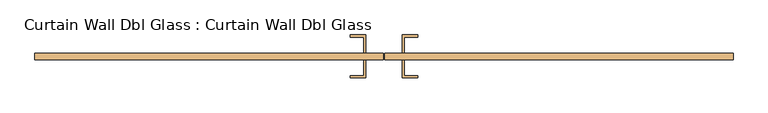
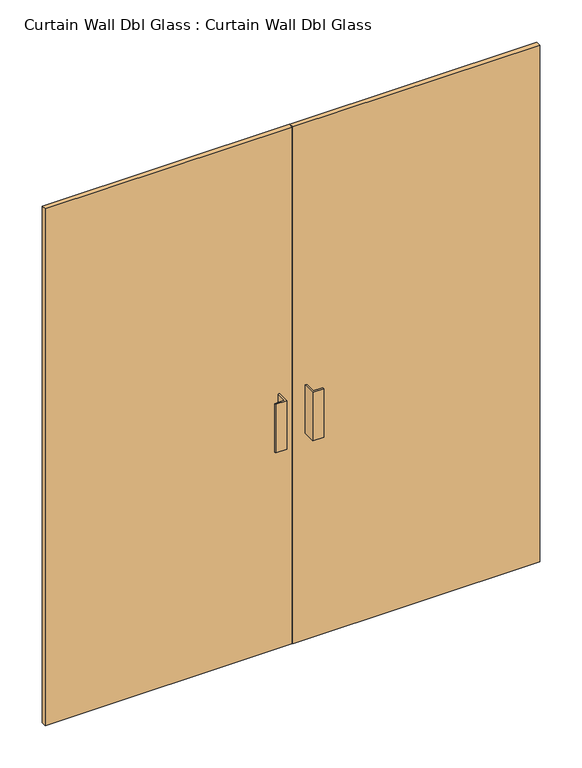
"""IFC4 building model written with IfcOpenShell, lengths in millimetres: door geometry, Curtain Wall Dbl Glass : Curtain Wall Dbl Glass."""

import ifcopenshell
import ifcopenshell.guid

model = None  # the IFC model being written
_history = None  # IfcOwnerHistory: only IFC2X3 demands one
_inside = {}  # id of a spatial element -> (the spatial element, [elements in it])
_under = {}  # id of a project, library or spatial element -> (it, [spatial elements below it])
_declared = {}  # id of a project -> (the project, [libraries it declares])
_typed = {}  # id of a type object -> (the type object, [elements of that type])
_made_of = {}  # id of a material, layer set ... -> (it, [elements and type objects made of it])


def new_model(schema):
    """Start an empty IFC model of exactly this schema.

    Asked for "IFC4X3", IfcOpenShell would pick the latest addendum, in which some entities
    have other attributes; the version numbers below select the first issue.
    IFC2X3 requires an IfcOwnerHistory on every rooted entity: one is made here for all.
    """
    global model, _history
    if schema == "IFC4X3":
        model = ifcopenshell.file(schema_version=(4, 3, 0, 0))
    else:
        model = ifcopenshell.file(schema=schema)
    _inside.clear()
    _under.clear()
    _declared.clear()
    _typed.clear()
    _made_of.clear()
    _history = None
    if model.schema == "IFC2X3":
        org = make("IfcOrganization", Name="unknown")
        user = make(
            "IfcPersonAndOrganization",
            ThePerson=make("IfcPerson", FamilyName="unknown"),
            TheOrganization=org,
        )
        app = make(
            "IfcApplication",
            ApplicationDeveloper=org,
            Version="unknown",
            ApplicationFullName="unknown",
            ApplicationIdentifier="unknown",
        )
        _history = make(
            "IfcOwnerHistory",
            OwningUser=user,
            OwningApplication=app,
            ChangeAction="ADDED",
            CreationDate=0,
        )
    return model


def make(cls, **values):
    """One entity of the class cls with the attributes given. An attribute that is None is left unset."""
    return model.create_entity(
        cls, **{name: value for name, value in values.items() if value is not None}
    )


def rooted(cls, **values):
    """An entity with a GlobalId (a new one), such as an element, a storey or a relation."""
    return make(cls, GlobalId=ifcopenshell.guid.new(), OwnerHistory=_history, **values)


def si_unit(unit_type, name, prefix=None):
    """IfcSIUnit, for example si_unit("LENGTHUNIT", "METRE", prefix="MILLI")."""
    return make("IfcSIUnit", UnitType=unit_type, Prefix=prefix, Name=name)


def assignment(units):
    """IfcUnitAssignment: the units of a project."""
    return None if units is None else make("IfcUnitAssignment", Units=units)


def point(xyz):
    """IfcCartesianPoint."""
    return None if xyz is None else make("IfcCartesianPoint", Coordinates=xyz)


def direction(xyz):
    """IfcDirection."""
    return None if xyz is None else make("IfcDirection", DirectionRatios=xyz)


def frame(location, z_axis=None, x_axis=None):
    """IfcAxis2Placement3D, a coordinate frame: its origin and axes. An axis left out is left unset."""
    return make(
        "IfcAxis2Placement3D",
        Location=point(location),
        Axis=direction(z_axis),
        RefDirection=direction(x_axis),
    )


def origin():
    """The frame at (0, 0, 0) with its axes left unset."""
    return frame((0.0, 0.0, 0.0))


def origin_with_axes():
    """The frame at (0, 0, 0) with the z axis (0, 0, 1) and the x axis (1, 0, 0) written out."""
    return frame((0.0, 0.0, 0.0), z_axis=(0.0, 0.0, 1.0), x_axis=(1.0, 0.0, 0.0))


def place(relative_to, where):
    """IfcLocalPlacement: puts the frame where relative to a parent placement (None: the world)."""
    return make(
        "IfcLocalPlacement", PlacementRelTo=relative_to, RelativePlacement=where
    )


def context(
    kind, dimensions, precision=None, world=None, true_north=None, identifier=None
):
    """IfcGeometricRepresentationContext, for example the 3D "Model" context."""
    return make(
        "IfcGeometricRepresentationContext",
        ContextIdentifier=identifier,
        ContextType=kind,
        CoordinateSpaceDimension=dimensions,
        Precision=precision,
        WorldCoordinateSystem=world,
        TrueNorth=true_north,
    )


def project(units=None, contexts=None):
    """IfcProject with its units and contexts."""
    return rooted(
        "IfcProject",
        Name="project",
        RepresentationContexts=contexts,
        UnitsInContext=assignment(units),
    )


def spatial(cls, under=None, at=None, **own):
    """A site, building, storey or space (cls), placed at a placement, below another one or the project."""
    s = rooted(cls, ObjectPlacement=at, **own)
    if under is not None:
        _under.setdefault(under.id(), (under, []))[1].append(s)
    return s


def polyline(points):
    """IfcPolyline through the points."""
    return make("IfcPolyline", Points=[point(p) for p in points])


def outline(outer, holes=None, kind="AREA"):
    """IfcArbitraryClosedProfileDef: a profile drawn as a closed curve; with holes, ...WithVoids."""
    if holes is None:
        return make("IfcArbitraryClosedProfileDef", ProfileType=kind, OuterCurve=outer)
    return make(
        "IfcArbitraryProfileDefWithVoids",
        ProfileType=kind,
        OuterCurve=outer,
        InnerCurves=holes,
    )


def extrude(swept, where, along, depth):
    """IfcExtrudedAreaSolid: the profile swept, set in the frame where, extruded along a direction by depth."""
    return make(
        "IfcExtrudedAreaSolid",
        SweptArea=swept,
        Position=where,
        ExtrudedDirection=direction(along),
        Depth=depth,
    )


def shape(context_of_items, identifier, shape_type, items):
    """IfcShapeRepresentation: the items that make up one representation, for example the "Body"."""
    return make(
        "IfcShapeRepresentation",
        ContextOfItems=context_of_items,
        RepresentationIdentifier=identifier,
        RepresentationType=shape_type,
        Items=items,
    )


def source(mapping_origin, context_of_items, identifier, shape_type, items):
    """IfcRepresentationMap: a shape defined once, which mapped items show again and again."""
    return make(
        "IfcRepresentationMap",
        MappingOrigin=mapping_origin,
        MappedRepresentation=shape(context_of_items, identifier, shape_type, items),
    )


def transform(
    local_origin,
    x_axis=None,
    y_axis=None,
    z_axis=None,
    scale=None,
    scale2=None,
    scale3=None,
    uniform=True,
):
    """IfcCartesianTransformationOperator3D, or its non-uniform kind. x_axis, y_axis, z_axis: its Axis1, 2, 3."""
    if uniform:
        return make(
            "IfcCartesianTransformationOperator3D",
            Axis1=direction(x_axis),
            Axis2=direction(y_axis),
            LocalOrigin=point(local_origin),
            Scale=scale,
            Axis3=direction(z_axis),
        )
    return make(
        "IfcCartesianTransformationOperator3DnonUniform",
        Axis1=direction(x_axis),
        Axis2=direction(y_axis),
        LocalOrigin=point(local_origin),
        Scale=scale,
        Axis3=direction(z_axis),
        Scale2=scale2,
        Scale3=scale3,
    )


def mapped(mapping_source, mapping_target):
    """IfcMappedItem: shows the shape of a source again, moved by a transform."""
    return make(
        "IfcMappedItem", MappingSource=mapping_source, MappingTarget=mapping_target
    )


def made_of(thing, what):
    """Note that an element or type object is made of a material, layer set ...; save() writes the relation."""
    if what is not None:
        _made_of.setdefault(what.id(), (what, []))[1].append(thing)
    return thing


def element(
    cls,
    number,
    at=None,
    inside=None,
    cuts=None,
    type_object=None,
    material=None,
    context=None,
    identifier="Body",
    shape_type=None,
    held_by="IfcProductDefinitionShape",
    body=None,
    shapes=None,
    **own,
):
    """One element of the class cls, such as IfcWall. Its Tag is "e" and its number.

    at: its placement. inside: the storey or other place that contains it. cuts: it is an
    opening in that element (IfcRelVoidsElement). A single representation is given by context,
    identifier, shape_type and body (its items); several are given by shapes. held_by: the class
    of the entity that holds the representations. save() writes the other relations.
    """
    e = rooted(cls, Tag="e%d" % number, ObjectPlacement=at, **own)
    if body is not None:
        shapes = [shape(context, identifier, shape_type, body)]
    if shapes is not None:
        e.Representation = make(held_by, Representations=shapes)
    if inside is not None:
        _inside.setdefault(inside.id(), (inside, []))[1].append(e)
    if cuts is not None:
        rooted(
            "IfcRelVoidsElement", RelatingBuildingElement=cuts, RelatedOpeningElement=e
        )
    if type_object is not None:
        _typed.setdefault(type_object.id(), (type_object, []))[1].append(e)
    return made_of(e, material)


def aggregate(whole, parts):
    """IfcRelAggregates: a whole, such as a stair, and the parts it consists of."""
    return rooted("IfcRelAggregates", RelatingObject=whole, RelatedObjects=parts)


def save(model, path):
    """Write the relations noted so far, then the file.

    IfcRelAggregates (storeys below a building ...), IfcRelContainedInSpatialStructure (elements
    in a storey), IfcRelDefinesByType, IfcRelAssociatesMaterial and IfcRelDeclares: one each for
    every whole, place, type object, material and project.
    """
    for whole, parts in _under.values():
        aggregate(whole, parts)
    for where, things in _inside.values():
        rooted(
            "IfcRelContainedInSpatialStructure",
            RelatedElements=things,
            RelatingStructure=where,
        )
    for kind, things in _typed.values():
        rooted("IfcRelDefinesByType", RelatedObjects=things, RelatingType=kind)
    for what, things in _made_of.values():
        rooted("IfcRelAssociatesMaterial", RelatedObjects=things, RelatingMaterial=what)
    for by, libraries in _declared.values():
        rooted("IfcRelDeclares", RelatingContext=by, RelatedDefinitions=libraries)
    model.write(path)


def curtain_wall_dbl_glass_curtain_wall_dbl_glass_05db96cf(model_context):
    return source(origin(), model_context, "Body", "SweptSolid", [
        extrude(outline(polyline([(-1.5875, 31.75), (-979.4875, 31.75), (-979.4875, 50.8), (-1.5875, 50.8), (-1.5875, 31.75)])), origin_with_axes(), (0.0, 0.0, 1.0), 2165.35),
        extrude(outline(polyline([(979.4875, 31.75), (1.5875, 31.75), (1.5875, 50.8), (979.4875, 50.8), (979.4875, 31.75)])), origin_with_axes(), (0.0, 0.0, 1.0), 2165.35),
        extrude(outline(polyline([(-50.8, 101.6), (-50.8, 50.8), (-57.15, 50.8), (-57.15, 95.25), (-95.25, 95.25), (-95.25, 101.6), (-50.8, 101.6)])), frame((0.0, 0.0, 863.6), z_axis=(0.0, 0.0, 1.0), x_axis=(1.0, 0.0, 0.0)), (0.0, 0.0, 1.0), 203.2),
        extrude(outline(polyline([(50.8, 101.6), (95.25, 101.6), (95.25, 95.25), (57.15, 95.25), (57.15, 50.8), (50.8, 50.8), (50.8, 101.6)])), frame((0.0, 0.0, 863.6), z_axis=(0.0, 0.0, 1.0), x_axis=(1.0, 0.0, 0.0)), (0.0, 0.0, 1.0), 203.2),
        extrude(outline(polyline([(-50.8, -19.05), (-95.25, -19.05), (-95.25, -12.7), (-57.15, -12.7), (-57.15, 31.75), (-50.8, 31.75), (-50.8, -19.05)])), frame((0.0, 0.0, 863.6), z_axis=(0.0, 0.0, 1.0), x_axis=(1.0, 0.0, 0.0)), (0.0, 0.0, 1.0), 203.2),
        extrude(outline(polyline([(50.8, -19.05), (50.8, 31.75), (57.15, 31.75), (57.15, -12.7), (95.25, -12.7), (95.25, -19.05), (50.8, -19.05)])), frame((0.0, 0.0, 863.6), z_axis=(0.0, 0.0, 1.0), x_axis=(1.0, 0.0, 0.0)), (0.0, 0.0, 1.0), 203.2),
    ])


if __name__ == "__main__":
    model = new_model("IFC4")
    model_context = context("Model", 3, world=origin())
    ifc_project = project(units=[si_unit("LENGTHUNIT", "METRE", prefix="MILLI")], contexts=[model_context])
    site = spatial("IfcSite", under=ifc_project)
    building = spatial("IfcBuilding", under=site)
    placement = place(None, origin())
    curtain_wall_dbl_glass_curtain_wall_dbl_glass_shape = curtain_wall_dbl_glass_curtain_wall_dbl_glass_05db96cf(model_context)
    element("IfcDoor", 1, ObjectType="Curtain Wall Dbl Glass : Curtain Wall Dbl Glass", at=placement, inside=building, context=model_context, shape_type="MappedRepresentation", body=[
        mapped(curtain_wall_dbl_glass_curtain_wall_dbl_glass_shape, transform((0.0, 0.0, 0.0), x_axis=(1.0, 0.0, 0.0), y_axis=(0.0, 1.0, 0.0), z_axis=(0.0, 0.0, 1.0))),
    ])
    save(model, "model.ifc")
